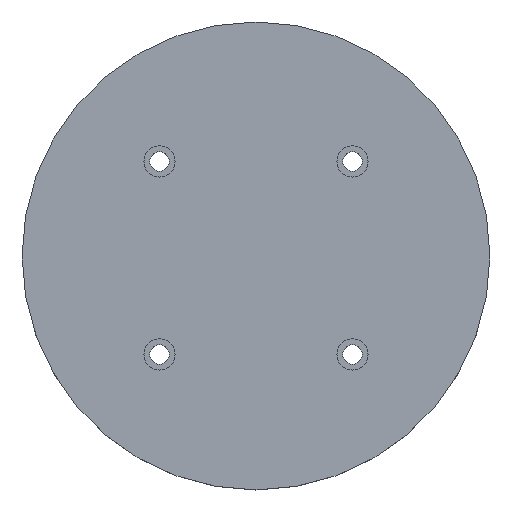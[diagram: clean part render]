
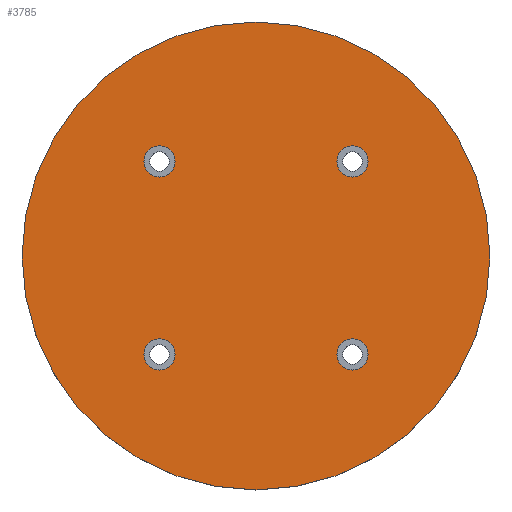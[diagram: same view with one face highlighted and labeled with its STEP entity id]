
A CAD part, top view. The second image highlights one B-rep face of the part: STEP entity #3785.
In plain terms, the highlighted planar face has unit normal (0, 0, 1).
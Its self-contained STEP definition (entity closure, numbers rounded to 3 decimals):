
#1374 = DIRECTION ( 'NONE',  ( 0., 0., 1. ) ) ;
#1375 = CARTESIAN_POINT ( 'NONE',  ( -31.431, -31.431, 38.1 ) ) ;
#1376 = AXIS2_PLACEMENT_3D ( 'NONE', #1375, #1374, #1448 ) ;
#1377 = CIRCLE ( 'NONE', #1376, 5.08 ) ;
#1378 = FACE_BOUND ( 'NONE', #3769, .T. ) ;
#1432 = DIRECTION ( 'NONE',  ( 1., 0., 0. ) ) ;
#1433 = DIRECTION ( 'NONE',  ( 0., 0., 1. ) ) ;
#1434 = CARTESIAN_POINT ( 'NONE',  ( -31.431, 31.431, 38.1 ) ) ;
#1435 = AXIS2_PLACEMENT_3D ( 'NONE', #1434, #1433, #1432 ) ;
#1436 = CIRCLE ( 'NONE', #1435, 5.08 ) ;
#1438 = DIRECTION ( 'NONE',  ( 1., 0., 0. ) ) ;
#1439 = DIRECTION ( 'NONE',  ( 0., 0., 1. ) ) ;
#1440 = AXIS2_PLACEMENT_3D ( 'NONE', #1443, #1439, #1438 ) ;
#1442 = PLANE ( 'NONE',  #1440 ) ;
#1443 = CARTESIAN_POINT ( 'NONE',  ( 0., 0.641, 38.1 ) ) ;
#1444 = FACE_OUTER_BOUND ( 'NONE', #3773, .T. ) ;
#1445 = FACE_BOUND ( 'NONE', #3845, .T. ) ;
#1446 = FACE_BOUND ( 'NONE', #3818, .T. ) ;
#1447 = FACE_BOUND ( 'NONE', #3766, .T. ) ;
#1448 = DIRECTION ( 'NONE',  ( 1., 0., 0. ) ) ;
#1460 = CIRCLE ( 'NONE', #1463, 76.2 ) ;
#1461 = DIRECTION ( 'NONE',  ( 1., 0., 0. ) ) ;
#1462 = DIRECTION ( 'NONE',  ( 0., 0., 1. ) ) ;
#1463 = AXIS2_PLACEMENT_3D ( 'NONE', #1484, #1462, #1461 ) ;
#1484 = CARTESIAN_POINT ( 'NONE',  ( 0., 0.641, 38.1 ) ) ;
#1508 = CARTESIAN_POINT ( 'NONE',  ( 31.431, -31.431, 38.1 ) ) ;
#1513 = CARTESIAN_POINT ( 'NONE',  ( 31.431, 31.431, 38.1 ) ) ;
#1531 = AXIS2_PLACEMENT_3D ( 'NONE', #1513, #1532, #1615 ) ;
#1532 = DIRECTION ( 'NONE',  ( 0., 0., 1. ) ) ;
#1536 = DIRECTION ( 'NONE',  ( 1., 0., 0. ) ) ;
#1537 = DIRECTION ( 'NONE',  ( 0., 0., 1. ) ) ;
#1538 = AXIS2_PLACEMENT_3D ( 'NONE', #1508, #1537, #1536 ) ;
#1539 = CIRCLE ( 'NONE', #1538, 5.08 ) ;
#1611 = CIRCLE ( 'NONE', #1531, 5.08 ) ;
#1615 = DIRECTION ( 'NONE',  ( 1., 0., 0. ) ) ;
#1948 = CARTESIAN_POINT ( 'NONE',  ( -76.2, 0.641, 38.1 ) ) ;
#1950 = CARTESIAN_POINT ( 'NONE',  ( 76.2, 0.641, 38.1 ) ) ;
#1951 = DIRECTION ( 'NONE',  ( 1., 0., 0. ) ) ;
#1952 = DIRECTION ( 'NONE',  ( 0., 0., 1. ) ) ;
#1953 = CARTESIAN_POINT ( 'NONE',  ( 0., 0.641, 38.1 ) ) ;
#1954 = AXIS2_PLACEMENT_3D ( 'NONE', #1953, #1952, #1951 ) ;
#1955 = CIRCLE ( 'NONE', #1954, 76.2 ) ;
#1979 = CARTESIAN_POINT ( 'NONE',  ( 26.351, -31.431, 38.1 ) ) ;
#1980 = CARTESIAN_POINT ( 'NONE',  ( -26.351, 31.431, 38.1 ) ) ;
#1981 = DIRECTION ( 'NONE',  ( 1., 0., 0. ) ) ;
#1982 = DIRECTION ( 'NONE',  ( 0., 0., 1. ) ) ;
#1983 = CARTESIAN_POINT ( 'NONE',  ( -31.431, 31.431, 38.1 ) ) ;
#1984 = AXIS2_PLACEMENT_3D ( 'NONE', #1983, #1982, #1981 ) ;
#1985 = CIRCLE ( 'NONE', #1984, 5.08 ) ;
#1986 = CARTESIAN_POINT ( 'NONE',  ( -36.511, 31.431, 38.1 ) ) ;
#2026 = CARTESIAN_POINT ( 'NONE',  ( 36.511, -31.431, 38.1 ) ) ;
#2027 = DIRECTION ( 'NONE',  ( 1., 0., 0. ) ) ;
#2028 = DIRECTION ( 'NONE',  ( 0., 0., 1. ) ) ;
#2029 = CARTESIAN_POINT ( 'NONE',  ( 31.431, -31.431, 38.1 ) ) ;
#2030 = AXIS2_PLACEMENT_3D ( 'NONE', #2029, #2028, #2027 ) ;
#2031 = CIRCLE ( 'NONE', #2030, 5.08 ) ;
#2032 = CARTESIAN_POINT ( 'NONE',  ( 36.511, 31.431, 38.1 ) ) ;
#2048 = CARTESIAN_POINT ( 'NONE',  ( -26.351, -31.431, 38.1 ) ) ;
#2049 = CIRCLE ( 'NONE', #2113, 5.08 ) ;
#2054 = CARTESIAN_POINT ( 'NONE',  ( -36.511, -31.431, 38.1 ) ) ;
#2061 = CARTESIAN_POINT ( 'NONE',  ( 26.351, 31.431, 38.1 ) ) ;
#2071 = DIRECTION ( 'NONE',  ( 1., 0., 0. ) ) ;
#2072 = DIRECTION ( 'NONE',  ( 0., 0., 1. ) ) ;
#2073 = CARTESIAN_POINT ( 'NONE',  ( 31.431, 31.431, 38.1 ) ) ;
#2074 = AXIS2_PLACEMENT_3D ( 'NONE', #2073, #2072, #2071 ) ;
#2075 = CIRCLE ( 'NONE', #2074, 5.08 ) ;
#2110 = DIRECTION ( 'NONE',  ( 1., 0., 0. ) ) ;
#2111 = DIRECTION ( 'NONE',  ( 0., 0., 1. ) ) ;
#2112 = CARTESIAN_POINT ( 'NONE',  ( -31.431, -31.431, 38.1 ) ) ;
#2113 = AXIS2_PLACEMENT_3D ( 'NONE', #2112, #2111, #2110 ) ;
#3766 = EDGE_LOOP ( 'NONE', ( #3780, #3775 ) ) ;
#3769 = EDGE_LOOP ( 'NONE', ( #3770, #3777 ) ) ;
#3770 = ORIENTED_EDGE ( 'NONE', *, *, #3787, .F. ) ;
#3771 = EDGE_CURVE ( 'NONE', #4027, #4026, #1460, .T. ) ;
#3773 = EDGE_LOOP ( 'NONE', ( #3781, #3795 ) ) ;
#3774 = EDGE_CURVE ( 'NONE', #4071, #4094, #1377, .T. ) ;
#3775 = ORIENTED_EDGE ( 'NONE', *, *, #4096, .F. ) ;
#3777 = ORIENTED_EDGE ( 'NONE', *, *, #4054, .F. ) ;
#3779 = ORIENTED_EDGE ( 'NONE', *, *, #4085, .F. ) ;
#3780 = ORIENTED_EDGE ( 'NONE', *, *, #3774, .F. ) ;
#3781 = ORIENTED_EDGE ( 'NONE', *, *, #3771, .T. ) ;
#3785 = ADVANCED_FACE ( 'NONE', ( #1378, #1447, #1446, #1445, #1444 ), #1442, .T. ) ;
#3787 = EDGE_CURVE ( 'NONE', #4055, #4052, #1436, .T. ) ;
#3795 = ORIENTED_EDGE ( 'NONE', *, *, #4025, .T. ) ;
#3807 = EDGE_CURVE ( 'NONE', #4074, #4090, #1611, .T. ) ;
#3808 = ORIENTED_EDGE ( 'NONE', *, *, #3840, .F. ) ;
#3818 = EDGE_LOOP ( 'NONE', ( #3808, #3839 ) ) ;
#3839 = ORIENTED_EDGE ( 'NONE', *, *, #4075, .F. ) ;
#3840 = EDGE_CURVE ( 'NONE', #4076, #4056, #1539, .T. ) ;
#3842 = ORIENTED_EDGE ( 'NONE', *, *, #3807, .F. ) ;
#3845 = EDGE_LOOP ( 'NONE', ( #3842, #3779 ) ) ;
#4025 = EDGE_CURVE ( 'NONE', #4026, #4027, #1955, .T. ) ;
#4026 = VERTEX_POINT ( 'NONE', #1950 ) ;
#4027 = VERTEX_POINT ( 'NONE', #1948 ) ;
#4052 = VERTEX_POINT ( 'NONE', #1986 ) ;
#4054 = EDGE_CURVE ( 'NONE', #4052, #4055, #1985, .T. ) ;
#4055 = VERTEX_POINT ( 'NONE', #1980 ) ;
#4056 = VERTEX_POINT ( 'NONE', #1979 ) ;
#4071 = VERTEX_POINT ( 'NONE', #2048 ) ;
#4074 = VERTEX_POINT ( 'NONE', #2032 ) ;
#4075 = EDGE_CURVE ( 'NONE', #4056, #4076, #2031, .T. ) ;
#4076 = VERTEX_POINT ( 'NONE', #2026 ) ;
#4085 = EDGE_CURVE ( 'NONE', #4090, #4074, #2075, .T. ) ;
#4090 = VERTEX_POINT ( 'NONE', #2061 ) ;
#4094 = VERTEX_POINT ( 'NONE', #2054 ) ;
#4096 = EDGE_CURVE ( 'NONE', #4094, #4071, #2049, .T. ) ;
